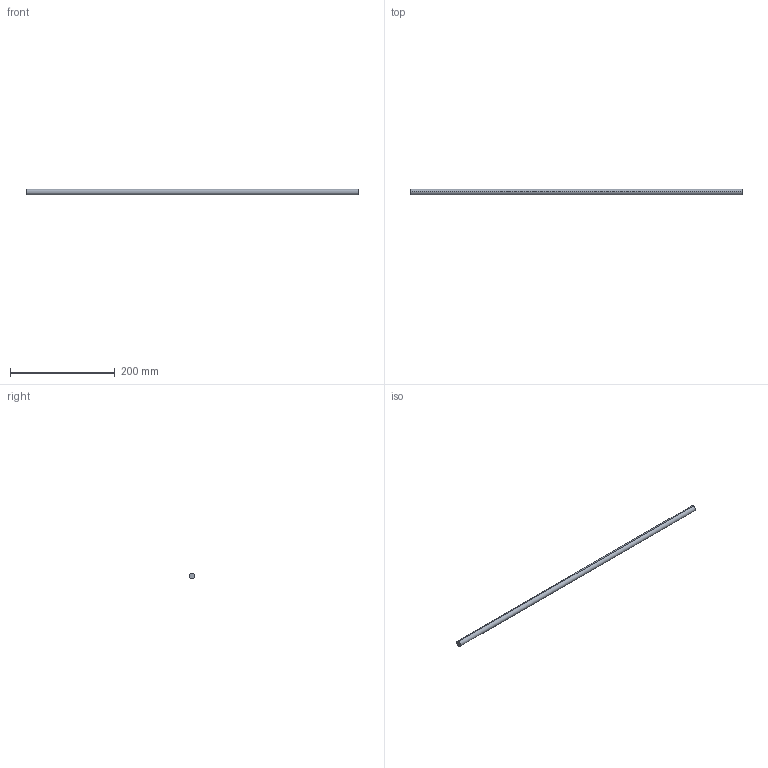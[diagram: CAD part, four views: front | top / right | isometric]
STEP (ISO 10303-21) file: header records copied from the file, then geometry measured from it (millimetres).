
FILE_DESCRIPTION (( 'STEP AP214' ), '1' );
FILE_NAME ('Querreling_2S-Rel_7102_KAB-735.step', '2010-09-22T15:05:56', ( 'grass' ), ( '' ), 'SwSTEP 2.0', 'SolidWorks 2010', '' );
FILE_SCHEMA (( 'AUTOMOTIVE_DESIGN' ));
Length unit declared in the file: millimetre
Products named in the file (1): Querreling_2S-Rel_7102_KAB-735
Bounding box: 634 x 11 x 11 mm (x, y, z)
Volume: 60251 mm3; surface area: 22099.5 mm2
Topology: 1 solids, 1 shells, 4 faces, 6 edges, 4 vertices
Faces by surface type: cylinder 2, plane 2
Entity records: 128 total; most frequent: DIRECTION 20, CARTESIAN_POINT 15, ORIENTED_EDGE 12, AXIS2_PLACEMENT_3D 9, EDGE_CURVE 6, VERTEX_POINT 4, ADVANCED_FACE 4, EDGE_LOOP 4
